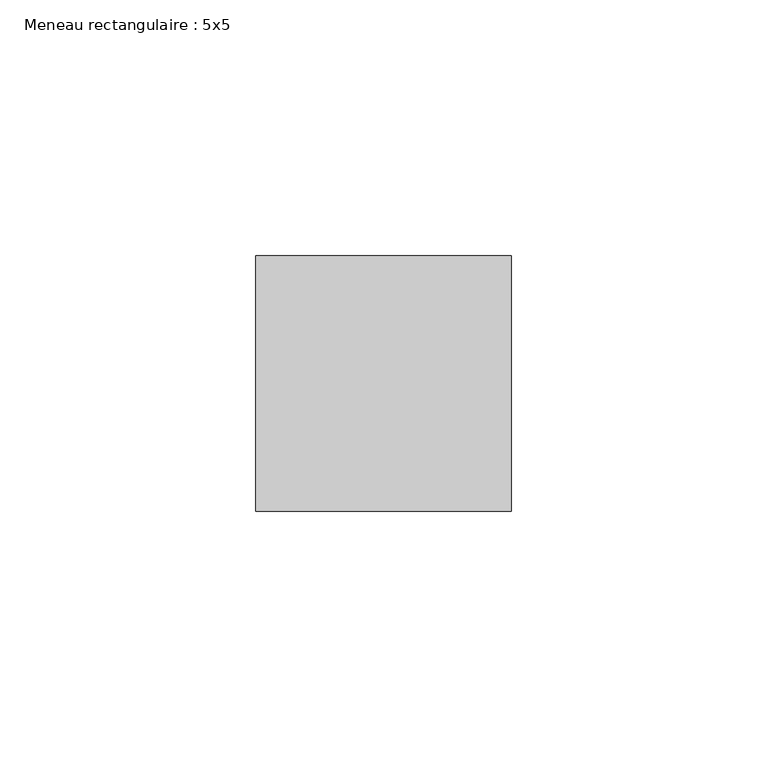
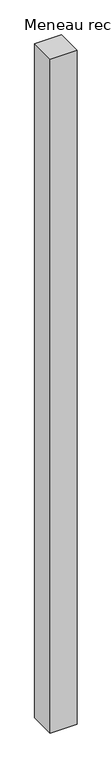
"""IFC4 building model written with IfcOpenShell, lengths in millimetres: member geometry, Meneau rectangulaire : 5x5."""

from ifc_helpers import new_model, si_unit, frame, origin, place, context, project, spatial, polyline, outline, extrude, source, transform, mapped, element, save


def meneau_rectangulaire_5x5_16270d54(model_context):
    return source(origin(), model_context, "Body", "SweptSolid", [
        extrude(outline(polyline([(0.0, 25.0), (0.0, -25.0), (-50.0, -25.0), (-50.0, 25.0), (0.0, 25.0)])), frame((0.0, 0.0, -1325.0), z_axis=(0.0, 0.0, 1.0), x_axis=(1.0, 0.0, 0.0)), (0.0, 0.0, 1.0), 1325.0),
    ])


if __name__ == "__main__":
    model = new_model("IFC4")
    model_context = context("Model", 3, world=origin())
    ifc_project = project(units=[si_unit("LENGTHUNIT", "METRE", prefix="MILLI")], contexts=[model_context])
    site = spatial("IfcSite", under=ifc_project)
    building = spatial("IfcBuilding", under=site)
    placement = place(None, origin())
    meneau_rectangulaire_5x5_shape = meneau_rectangulaire_5x5_16270d54(model_context)
    element("IfcMember", 1, ObjectType="Meneau rectangulaire : 5x5", at=placement, inside=building, context=model_context, shape_type="MappedRepresentation", body=[
        mapped(meneau_rectangulaire_5x5_shape, transform((0.0, 0.0, 0.0), x_axis=(1.0, 0.0, 0.0), y_axis=(0.0, 1.0, 0.0), z_axis=(0.0, 0.0, 1.0))),
    ])
    save(model, "model.ifc")
